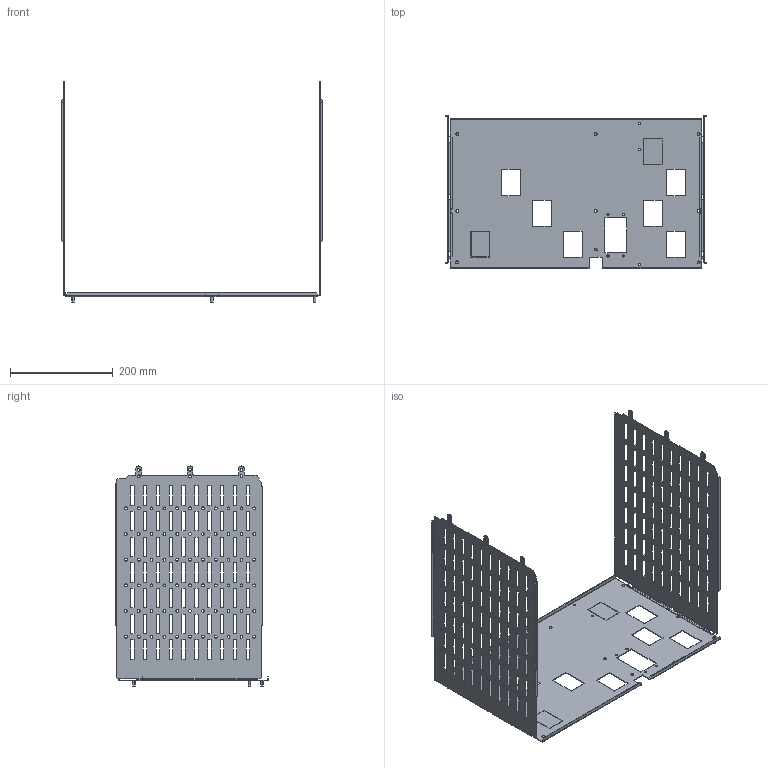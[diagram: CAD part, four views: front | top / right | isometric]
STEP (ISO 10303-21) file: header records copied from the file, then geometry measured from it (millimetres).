
FILE_DESCRIPTION(('CAx-IF Rec.Pracs.---Model Styling and Organization---1.2---2011-12-15','CAx-IF Rec.Pracs.---Geometric and Assembly Validation Properties---4.1---2014-06-16','CAx-IF Rec.Pracs.---PMI Polyline Presentation---2.0---2013-05-24'),'2;1');
FILE_NAME('R5M2W6M1A66.stp','2021-05-05T12:30:15+03:00',(''),(''),'STEP Interface 4.4 by CT CoreTechnologie','3D_Evolution4.4 by CT CoreTechnologie','');
FILE_SCHEMA(('AUTOMOTIVE_DESIGN { 1 0 10303 214 1 1 1 1 }'));
Length unit declared in the file: millimetre
Products named in the file (5): R5M2W6M1A66; RB.1285.00.00.0_-12; RB.1285.00.00.0_-13; M5x8-DIN7500C_stright; RB.1257.00.00.0_-09
Assembly tree (9 placements, depth 2):
  R5M2W6M1A66
    RB.1285.00.00.0_-12
    RB.1285.00.00.0_-13
    M5x8-DIN7500C_stright  x6
    RB.1257.00.00.0_-09
Bounding box: 510 x 297.5 x 428.6 mm (x, y, z)
Surface area: 683561.9 mm2 (no closed solid volume)
Topology: 0 solids, 10 shells, 1197 faces, 3559 edges, 2370 vertices
Faces by surface type: plane 807, cylinder 390
Entity records: 41171 total; most frequent: CARTESIAN_POINT 7066, ORIENTED_EDGE 7058, DIRECTION 6665, EDGE_CURVE 3529, VECTOR 2767, LINE 2767, VERTEX_POINT 2350, AXIS2_PLACEMENT_3D 1949
